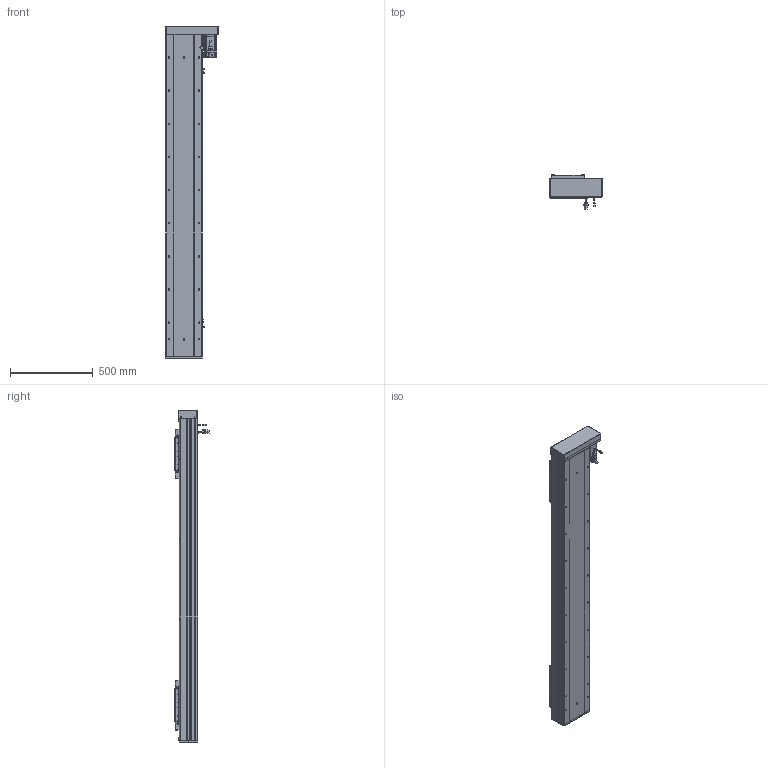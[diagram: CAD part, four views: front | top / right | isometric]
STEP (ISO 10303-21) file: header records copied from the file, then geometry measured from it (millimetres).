
FILE_DESCRIPTION (( 'STEP AP203' ), '1' );
FILE_NAME ('RY220F-L2525-800-RK-邧嶺.SLDASM_1500.step', '2022-08-06T08:19:35', ( '' ), ( '' ), 'SwSTEP 2.0', 'SolidWorks 2016', '' );
FILE_SCHEMA (( 'CONFIG_CONTROL_DESIGN' ));
Length unit declared in the file: millimetre
Products named in the file (15): 怢湛750W_ECMA-CX0807ES; RY220F-L2525-800-RK-邧嶺.SLDASM_1500; RY220F蛌殏菁釱-800-邧嶺_1500; 滅袉蝶18-24; RY220F-672覜茼んえ; RY220F-詩湍揤踡輸; RY220F臏賑釱25-32佪裝; RY220F綴裔啣; RY220左右折电机安装板; 覜茼ん672; RY220F-祥凄詩湍-蛌殏-800_1500; RY220酘衵殏萇儂欶; RY220F-蛌殏奻裔啣-800_1500; 侐源滅袉蝶; RY220F-滅鳥奻裔
Assembly tree (24 placements, depth 2):
  RY220F-L2525-800-RK-邧嶺.SLDASM_1500
    RY220F蛌殏菁釱-800-邧嶺_1500
    RY220F-蛌殏奻裔啣-800_1500  x2
    怢湛750W_ECMA-CX0807ES
    RY220F臏賑釱25-32佪裝  x2
    RY220F-滅鳥奻裔  x2
    滅袉蝶18-24  x3
    RY220F綴裔啣
    RY220F-祥凄詩湍-蛌殏-800_1500
    RY220F-詩湍揤踡輸  x2
    覜茼ん672  x3
    RY220F-672覜茼んえ  x2
    RY220左右折电机安装板
    RY220酘衵殏萇儂欶
    侐源滅袉蝶  x2
Bounding box: 317.5 x 205.27 x 2003 mm (x, y, z)
Volume: 17927511.9 mm3; surface area: 4746554.9 mm2
Topology: 25 solids, 25 shells, 2836 faces, 7704 edges, 4752 vertices
Faces by surface type: cylinder 1286, plane 1044, cone 435, bspline 45, sphere 16, torus 10
Entity records: 70544 total; most frequent: CARTESIAN_POINT 18949, ORIENTED_EDGE 10398, DIRECTION 10188, EDGE_CURVE 5199, AXIS2_PLACEMENT_3D 3642, VERTEX_POINT 3368, LINE 2904, VECTOR 2904
